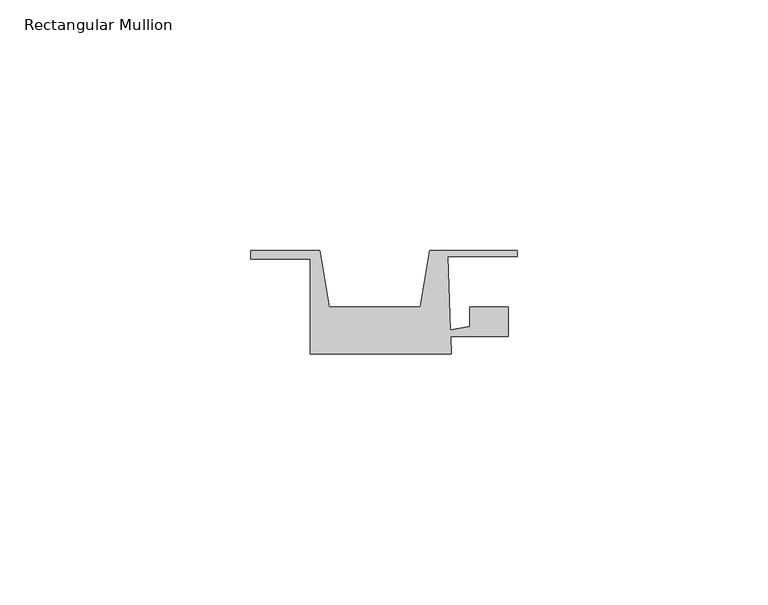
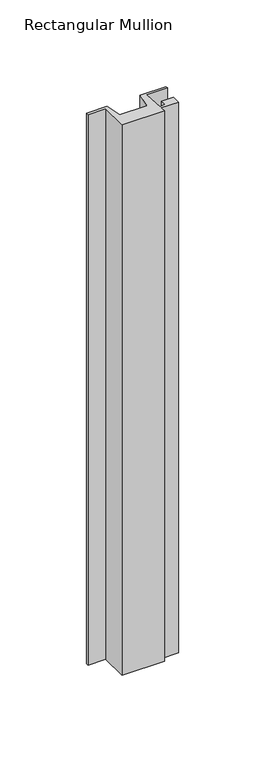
"""IFC4 building model written with IfcOpenShell, lengths in millimetres: member geometry, Rectangular Mullion : QuickPanel-Reveal_Projecting-Window-Sill-Trim."""

from ifc_helpers import new_model, si_unit, frame, origin, place, context, project, spatial, polyline, outline, extrude, source, transform, mapped, element, save


def rectangular_mullion_66178f99(model_context):
    return source(origin(), model_context, "Body", "SweptSolid", [
        extrude(outline(polyline([(15.2537677, -8.4571273), (-12.861394, -8.4571273), (-12.861394, 10.4985348), (-24.7595935, 10.4985348), (-24.7595935, 12.1803727), (-10.9830926, 12.1803727), (-9.0500129, 0.9043028), (9.0500129, 0.9043028), (10.9830926, 12.1803727), (28.4330946, 12.1803727), (28.4330946, 10.9303752), (14.5767412, 10.9303752), (15.0859887, -3.6525665), (18.9062372, -2.9976535), (18.9062372, 0.8868034), (26.6510103, 0.8868034), (26.6510103, -4.9475935), (15.1312121, -4.9475935), (15.2537677, -8.4571273)])), frame((0.0, 0.0, -387.814328), z_axis=(0.0, 0.0, 1.0), x_axis=(1.0, 0.0, 0.0)), (0.0, 0.0, 1.0), 387.814328),
    ])


if __name__ == "__main__":
    model = new_model("IFC4")
    model_context = context("Model", 3, world=origin())
    ifc_project = project(units=[si_unit("LENGTHUNIT", "METRE", prefix="MILLI")], contexts=[model_context])
    site = spatial("IfcSite", under=ifc_project)
    building = spatial("IfcBuilding", under=site)
    placement = place(None, origin())
    rectangular_mullion_shape = rectangular_mullion_66178f99(model_context)
    element("IfcMember", 1, ObjectType="Rectangular Mullion : QuickPanel-Reveal_Projecting-Window-Sill-Trim", at=placement, inside=building, context=model_context, shape_type="MappedRepresentation", body=[
        mapped(rectangular_mullion_shape, transform((0.0, 0.0, 0.0), x_axis=(1.0, 0.0, 0.0), y_axis=(0.0, 1.0, 0.0), z_axis=(0.0, 0.0, 1.0))),
    ])
    save(model, "model.ifc")
